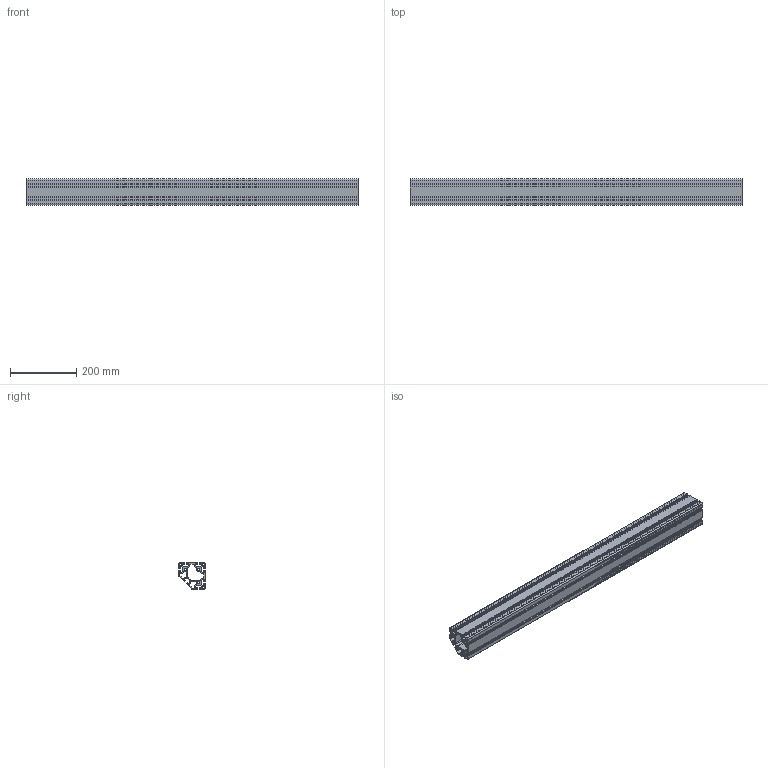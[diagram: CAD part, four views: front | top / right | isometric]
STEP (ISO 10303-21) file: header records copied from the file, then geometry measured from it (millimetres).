
FILE_DESCRIPTION (( 'STEP AP203' ), '1' );
FILE_NAME ('10432_PRO_80x80_L_45.STEP', '2016-03-02T08:26:24', ( '' ), ( '' ), 'SwSTEP 2.0', 'SolidWorks 2015', '' );
FILE_SCHEMA (( 'CONFIG_CONTROL_DESIGN' ));
Length unit declared in the file: millimetre
Products named in the file (1): 10432_PRO_80x80_L_45
Bounding box: 1000 x 80 x 80 mm (x, y, z)
Volume: 1892836 mm3; surface area: 1074498.4 mm2
Topology: 1 solids, 1 shells, 298 faces, 888 edges, 592 vertices
Faces by surface type: plane 151, cylinder 147
Entity records: 10199 total; most frequent: DIRECTION 1780, CARTESIAN_POINT 1779, ORIENTED_EDGE 1776, EDGE_CURVE 888, LINE 594, VECTOR 594, AXIS2_PLACEMENT_3D 593, VERTEX_POINT 592
